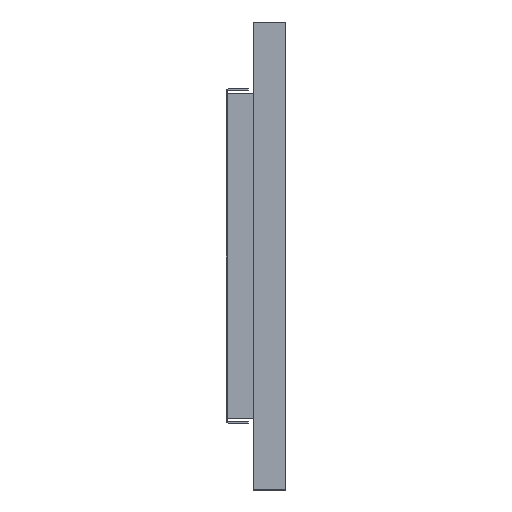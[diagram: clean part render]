
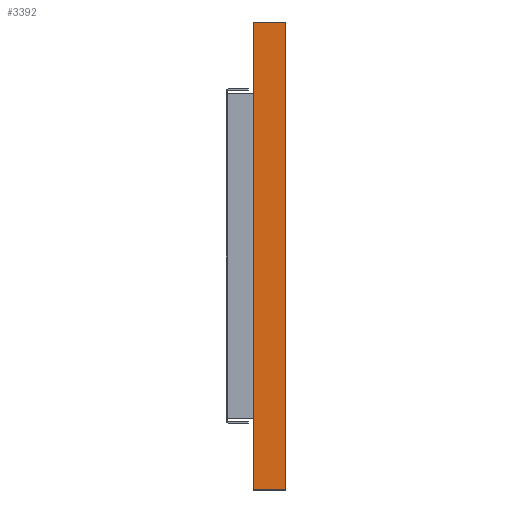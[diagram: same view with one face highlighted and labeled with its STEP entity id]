
A CAD part, left-side view. The second image highlights one B-rep face of the part: STEP entity #3392.
In plain terms, the highlighted planar face has unit normal (-1, 0, 0).
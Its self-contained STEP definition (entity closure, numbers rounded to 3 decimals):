
#151 = VERTEX_POINT ( 'NONE', #2448 ) ;
#357 = LINE ( 'NONE', #1594, #1087 ) ;
#413 = ORIENTED_EDGE ( 'NONE', *, *, #2156, .F. ) ;
#482 = CARTESIAN_POINT ( 'NONE',  ( -258.592, -12.233, -36. ) ) ;
#729 = PLANE ( 'NONE',  #1906 ) ;
#730 = EDGE_CURVE ( 'NONE', #855, #3908, #1662, .T. ) ;
#855 = VERTEX_POINT ( 'NONE', #2657 ) ;
#864 = EDGE_CURVE ( 'NONE', #855, #3191, #2129, .T. ) ;
#1036 = CARTESIAN_POINT ( 'NONE',  ( -258.592, -12.233, -36. ) ) ;
#1051 = CARTESIAN_POINT ( 'NONE',  ( -258.592, -7.233, -36. ) ) ;
#1087 = VECTOR ( 'NONE', #2193, 1000. ) ;
#1594 = CARTESIAN_POINT ( 'NONE',  ( -258.592, -7.233, 36. ) ) ;
#1662 = LINE ( 'NONE', #2585, #3499 ) ;
#1906 = AXIS2_PLACEMENT_3D ( 'NONE', #1051, #2882, #3488 ) ;
#1948 = EDGE_CURVE ( 'NONE', #3191, #151, #3774, .T. ) ;
#2044 = VECTOR ( 'NONE', #2826, 1000. ) ;
#2129 = LINE ( 'NONE', #3943, #2356 ) ;
#2156 = EDGE_CURVE ( 'NONE', #3908, #151, #357, .T. ) ;
#2193 = DIRECTION ( 'NONE',  ( 0., -1., 0. ) ) ;
#2356 = VECTOR ( 'NONE', #3346, 1000. ) ;
#2387 = ORIENTED_EDGE ( 'NONE', *, *, #1948, .T. ) ;
#2448 = CARTESIAN_POINT ( 'NONE',  ( -258.592, -12.233, 36. ) ) ;
#2585 = CARTESIAN_POINT ( 'NONE',  ( -258.592, -7.233, -36. ) ) ;
#2615 = ORIENTED_EDGE ( 'NONE', *, *, #730, .F. ) ;
#2657 = CARTESIAN_POINT ( 'NONE',  ( -258.592, -7.233, -36. ) ) ;
#2826 = DIRECTION ( 'NONE',  ( 0., 0., 1. ) ) ;
#2882 = DIRECTION ( 'NONE',  ( 1., 0., 0. ) ) ;
#3191 = VERTEX_POINT ( 'NONE', #482 ) ;
#3201 = ORIENTED_EDGE ( 'NONE', *, *, #864, .T. ) ;
#3252 = CARTESIAN_POINT ( 'NONE',  ( -258.592, -7.233, 36. ) ) ;
#3346 = DIRECTION ( 'NONE',  ( 0., -1., 0. ) ) ;
#3392 = ADVANCED_FACE ( 'NONE', ( #3792 ), #729, .F. ) ;
#3421 = EDGE_LOOP ( 'NONE', ( #2387, #413, #2615, #3201 ) ) ;
#3488 = DIRECTION ( 'NONE',  ( 0., 0., -1. ) ) ;
#3499 = VECTOR ( 'NONE', #3793, 1000. ) ;
#3774 = LINE ( 'NONE', #1036, #2044 ) ;
#3792 = FACE_OUTER_BOUND ( 'NONE', #3421, .T. ) ;
#3793 = DIRECTION ( 'NONE',  ( 0., 0., 1. ) ) ;
#3908 = VERTEX_POINT ( 'NONE', #3252 ) ;
#3943 = CARTESIAN_POINT ( 'NONE',  ( -258.592, -7.233, -36. ) ) ;
